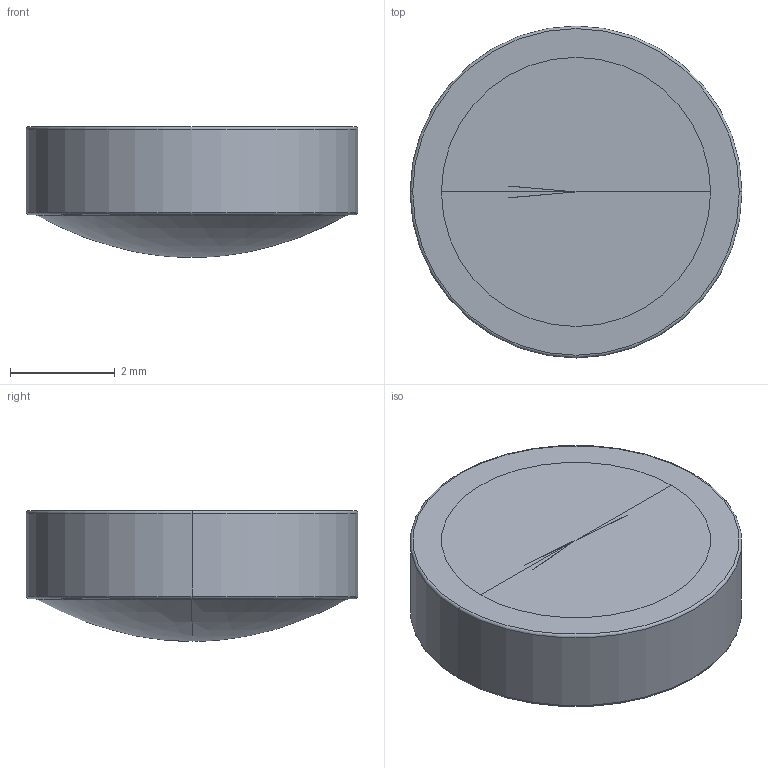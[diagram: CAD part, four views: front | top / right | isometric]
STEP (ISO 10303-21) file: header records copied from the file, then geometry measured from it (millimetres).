
FILE_DESCRIPTION((''),'2;1');
FILE_NAME('354060','2025-07-26T22:36:37',('admin'),('LIGHTPATH'),'CREO PARAMETRIC BY PTC INC, 2024063','CREO PARAMETRIC BY PTC INC, 2024063','');
FILE_SCHEMA(('CONFIG_CONTROL_DESIGN'));
Length unit declared in the file: millimetre
Products named in the file (1): 354060
Bounding box: 6.33 x 6.33 x 2.49 mm (x, y, z)
Volume: 64.2 mm3; surface area: 97.4 mm2
Topology: 1 solids, 1 shells, 14 faces, 30 edges, 16 vertices
Faces by surface type: torus 6, revolution 4, plane 2, cylinder 2
Entity records: 671 total; most frequent: CARTESIAN_POINT 335, DIRECTION 68, ORIENTED_EDGE 52, AXIS2_PLACEMENT_3D 30, EDGE_CURVE 26, CIRCLE 20, VERTEX_POINT 16, EDGE_LOOP 16
